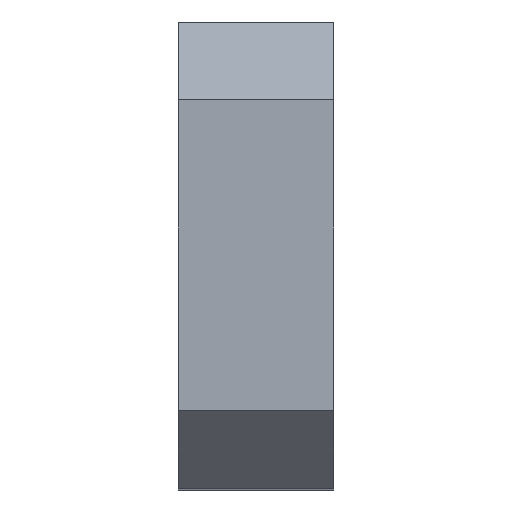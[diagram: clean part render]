
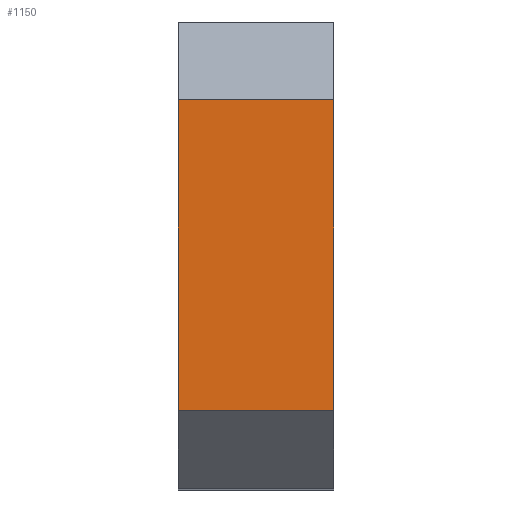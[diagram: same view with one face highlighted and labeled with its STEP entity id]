
A CAD part, top view. The second image highlights one B-rep face of the part: STEP entity #1150.
In plain terms, the highlighted planar face has unit normal (0, 0, 1).
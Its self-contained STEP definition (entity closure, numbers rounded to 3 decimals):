
#12 = CARTESIAN_POINT ( 'NONE',  ( -60., 16., 54. ) ) ;
#15 = CARTESIAN_POINT ( 'NONE',  ( -44., 16., 54. ) ) ;
#22 = EDGE_LOOP ( 'NONE', ( #580, #857, #1068, #701 ) ) ;
#41 = CARTESIAN_POINT ( 'NONE',  ( -60., -16., 54. ) ) ;
#54 = CARTESIAN_POINT ( 'NONE',  ( -60., -16., 54. ) ) ;
#131 = CARTESIAN_POINT ( 'NONE',  ( -60., -16., 54. ) ) ;
#219 = VECTOR ( 'NONE', #267, 1000. ) ;
#267 = DIRECTION ( 'NONE',  ( 0., 1., 0. ) ) ;
#352 = LINE ( 'NONE', #703, #219 ) ;
#374 = CARTESIAN_POINT ( 'NONE',  ( -60., 16., 54. ) ) ;
#385 = VECTOR ( 'NONE', #817, 1000. ) ;
#409 = VERTEX_POINT ( 'NONE', #54 ) ;
#495 = FACE_OUTER_BOUND ( 'NONE', #22, .T. ) ;
#524 = EDGE_CURVE ( 'NONE', #966, #663, #1410, .T. ) ;
#580 = ORIENTED_EDGE ( 'NONE', *, *, #1181, .T. ) ;
#601 = DIRECTION ( 'NONE',  ( 1., 0., 0. ) ) ;
#616 = PLANE ( 'NONE',  #1270 ) ;
#663 = VERTEX_POINT ( 'NONE', #15 ) ;
#701 = ORIENTED_EDGE ( 'NONE', *, *, #1276, .T. ) ;
#703 = CARTESIAN_POINT ( 'NONE',  ( -44., -16., 54. ) ) ;
#817 = DIRECTION ( 'NONE',  ( 1., 0., 0. ) ) ;
#856 = EDGE_CURVE ( 'NONE', #409, #966, #1262, .T. ) ;
#857 = ORIENTED_EDGE ( 'NONE', *, *, #524, .F. ) ;
#932 = CARTESIAN_POINT ( 'NONE',  ( -44., -16., 54. ) ) ;
#949 = VECTOR ( 'NONE', #1388, 1000. ) ;
#966 = VERTEX_POINT ( 'NONE', #12 ) ;
#1002 = VERTEX_POINT ( 'NONE', #932 ) ;
#1068 = ORIENTED_EDGE ( 'NONE', *, *, #856, .F. ) ;
#1143 = CARTESIAN_POINT ( 'NONE',  ( -60., -16., 54. ) ) ;
#1150 = ADVANCED_FACE ( 'NONE', ( #495 ), #616, .T. ) ;
#1181 = EDGE_CURVE ( 'NONE', #1002, #663, #352, .T. ) ;
#1262 = LINE ( 'NONE', #1143, #949 ) ;
#1270 = AXIS2_PLACEMENT_3D ( 'NONE', #41, #1309, #601 ) ;
#1276 = EDGE_CURVE ( 'NONE', #409, #1002, #1318, .T. ) ;
#1283 = VECTOR ( 'NONE', #1428, 1000. ) ;
#1309 = DIRECTION ( 'NONE',  ( 0., 0., 1. ) ) ;
#1318 = LINE ( 'NONE', #131, #385 ) ;
#1388 = DIRECTION ( 'NONE',  ( 0., 1., 0. ) ) ;
#1410 = LINE ( 'NONE', #374, #1283 ) ;
#1428 = DIRECTION ( 'NONE',  ( 1., 0., 0. ) ) ;
